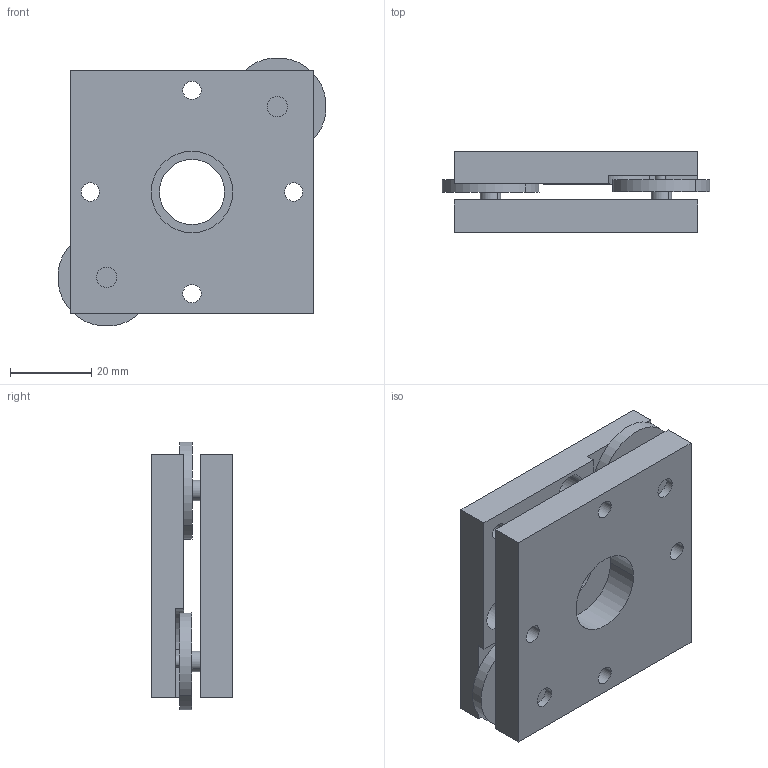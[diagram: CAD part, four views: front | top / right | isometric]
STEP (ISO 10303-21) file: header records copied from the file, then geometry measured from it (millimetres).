
FILE_DESCRIPTION (( 'STEP AP203' ), '1' );
FILE_NAME ('TD-604.STEP', '2008-04-07T02:53:08', ( '' ), ( '' ), 'SwSTEP 2.0', 'SolidWorks 2007', '' );
FILE_SCHEMA (( 'CONFIG_CONTROL_DESIGN' ));
Length unit declared in the file: millimetre
Products named in the file (2): TD-604-1_蹬怮椔; TD-604
Assembly tree (1 placements, depth 2):
  TD-604
    TD-604-1_蹬怮椔
Bounding box: 65.91 x 20 x 65.91 mm (x, y, z)
Volume: 51220.1 mm3; surface area: 21644 mm2
Topology: 2 solids, 2 shells, 99 faces, 257 edges, 167 vertices
Faces by surface type: cylinder 56, plane 31, cone 8, sphere 4
Entity records: 3321 total; most frequent: DIRECTION 576, CARTESIAN_POINT 571, ORIENTED_EDGE 498, EDGE_CURVE 249, AXIS2_PLACEMENT_3D 232, VERTEX_POINT 167, EDGE_LOOP 140, CIRCLE 129
